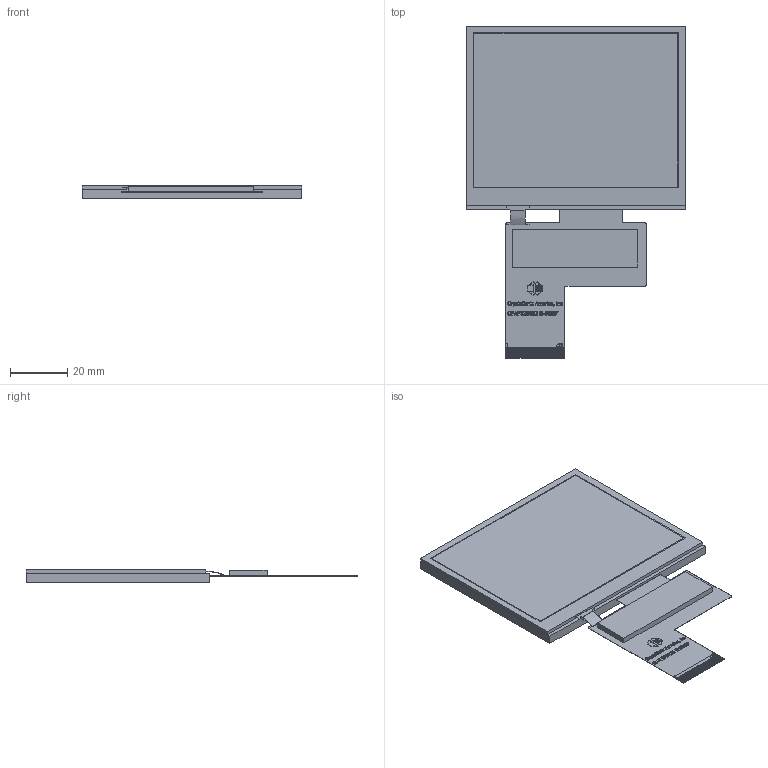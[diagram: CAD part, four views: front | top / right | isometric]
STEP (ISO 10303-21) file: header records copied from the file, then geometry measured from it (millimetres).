
FILE_DESCRIPTION (( 'STEP AP214' ), '1' );
FILE_NAME ('CFAF320240H0-035SR.STEP', '2022-07-07T20:22:16', ( '' ), ( '' ), 'SwSTEP 2.0', 'SolidWorks 2021', '' );
FILE_SCHEMA (( 'AUTOMOTIVE_DESIGN' ));
Length unit declared in the file: millimetre
Products named in the file (1): CFAF320240H0-035SR
Bounding box: 76.8 x 115.9 x 4.4 mm (x, y, z)
Volume: 22815.6 mm3; surface area: 25796.7 mm2
Topology: 99 solids, 99 shells, 988 faces, 2377 edges, 1592 vertices
Faces by surface type: plane 720, bspline 262, cylinder 6
Entity records: 53538 total; most frequent: CARTESIAN_POINT 20610, ORIENTED_EDGE 4754, DIRECTION 3313, EDGE_CURVE 2377, LINE 1835, VECTOR 1835, VERTEX_POINT 1592, UNCERTAINTY_MEASURE_WITH_UNIT 1066
